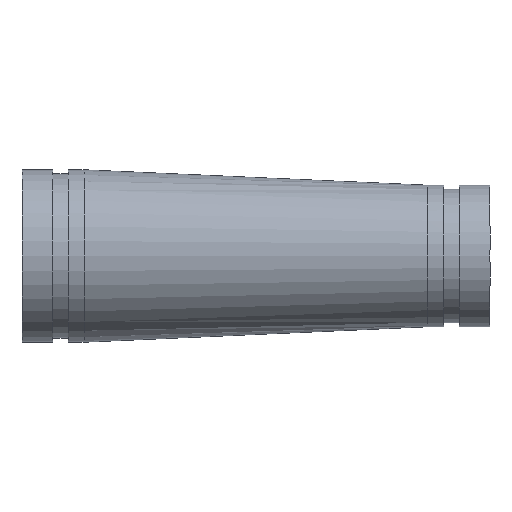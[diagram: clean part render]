
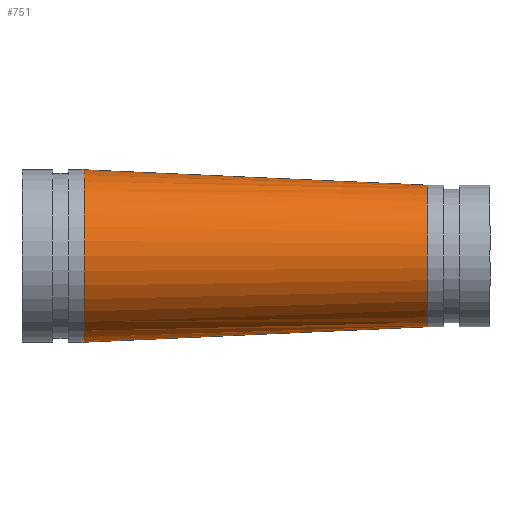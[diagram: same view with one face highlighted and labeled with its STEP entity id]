
A CAD part, front view. The second image highlights one B-rep face of the part: STEP entity #751.
In plain terms, the highlighted free-form (B-spline) face has degree [1, 2] with [2, 9] control points.
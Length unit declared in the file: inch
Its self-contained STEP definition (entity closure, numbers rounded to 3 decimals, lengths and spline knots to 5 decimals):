
#58=B_SPLINE_CURVE_WITH_KNOTS('',1,(#1409,#1410),.UNSPECIFIED.,.F.,.F.,
(2,2),(-3.99662,-0.00009),.UNSPECIFIED.);
#60=(
BOUNDED_SURFACE()
B_SPLINE_SURFACE(1,2,((#1387,#1388,#1389,#1390,#1391,#1392,#1393,#1394,
#1395),(#1396,#1397,#1398,#1399,#1400,#1401,#1402,#1403,#1404)),
 .UNSPECIFIED.,.F.,.T.,.F.)
B_SPLINE_SURFACE_WITH_KNOTS((2,2),(3,2,2,2,3),(-0.04699,4.03325),
(-3.14159,-1.5708,0.,1.5708,3.14159),
 .UNSPECIFIED.)
GEOMETRIC_REPRESENTATION_ITEM()
RATIONAL_B_SPLINE_SURFACE(((1.,0.707,1.,0.707,1.,
0.707,1.,0.707,1.),(1.,0.707,1.,0.707,
1.,0.707,1.,0.707,1.)))
REPRESENTATION_ITEM('')
SURFACE()
);
#128=FACE_OUTER_BOUND('',#160,.T.);
#160=EDGE_LOOP('',(#622,#623,#624,#625,#626,#627,#628));
#247=CIRCLE('',#870,1.4375);
#248=CIRCLE('',#871,1.75);
#249=CIRCLE('',#872,1.75);
#250=CIRCLE('',#873,1.4375);
#251=CIRCLE('',#874,1.4375);
#332=VERTEX_POINT('',#1405);
#333=VERTEX_POINT('',#1406);
#334=VERTEX_POINT('',#1408);
#335=VERTEX_POINT('',#1411);
#336=VERTEX_POINT('',#1414);
#436=EDGE_CURVE('',#332,#333,#247,.T.);
#437=EDGE_CURVE('',#333,#334,#58,.T.);
#438=EDGE_CURVE('',#334,#335,#248,.T.);
#439=EDGE_CURVE('',#335,#334,#249,.T.);
#440=EDGE_CURVE('',#333,#336,#250,.T.);
#441=EDGE_CURVE('',#336,#332,#251,.T.);
#622=ORIENTED_EDGE('',*,*,#436,.T.);
#623=ORIENTED_EDGE('',*,*,#437,.T.);
#624=ORIENTED_EDGE('',*,*,#438,.T.);
#625=ORIENTED_EDGE('',*,*,#439,.T.);
#626=ORIENTED_EDGE('',*,*,#437,.F.);
#627=ORIENTED_EDGE('',*,*,#440,.T.);
#628=ORIENTED_EDGE('',*,*,#441,.T.);
#751=ADVANCED_FACE('',(#128),#60,.F.);
#870=AXIS2_PLACEMENT_3D('',#1407,#1104,#1105);
#871=AXIS2_PLACEMENT_3D('',#1412,#1106,#1107);
#872=AXIS2_PLACEMENT_3D('',#1413,#1108,#1109);
#873=AXIS2_PLACEMENT_3D('',#1415,#1110,#1111);
#874=AXIS2_PLACEMENT_3D('',#1416,#1112,#1113);
#1104=DIRECTION('center_axis',(-1.,0.,0.));
#1105=DIRECTION('ref_axis',(0.,-1.,0.));
#1106=DIRECTION('center_axis',(1.,0.,0.));
#1107=DIRECTION('ref_axis',(0.,1.,0.));
#1108=DIRECTION('center_axis',(1.,0.,0.));
#1109=DIRECTION('ref_axis',(0.,1.,0.));
#1110=DIRECTION('center_axis',(-1.,0.,0.));
#1111=DIRECTION('ref_axis',(0.,-1.,0.));
#1112=DIRECTION('center_axis',(-1.,0.,0.));
#1113=DIRECTION('ref_axis',(0.,-1.,0.));
#1387=CARTESIAN_POINT('Ctrl Pts',(1.17778,0.00018,
1.75368));
#1388=CARTESIAN_POINT('Ctrl Pts',(1.09957,-1.75,1.75368));
#1389=CARTESIAN_POINT('Ctrl Pts',(1.09957,-1.75,0.));
#1390=CARTESIAN_POINT('Ctrl Pts',(1.09957,-1.75,-1.75368));
#1391=CARTESIAN_POINT('Ctrl Pts',(1.17778,0.00018,
-1.75368));
#1392=CARTESIAN_POINT('Ctrl Pts',(1.25598,1.75036,-1.75368));
#1393=CARTESIAN_POINT('Ctrl Pts',(1.25598,1.75036,0.));
#1394=CARTESIAN_POINT('Ctrl Pts',(1.25598,1.75036,1.75368));
#1395=CARTESIAN_POINT('Ctrl Pts',(1.17778,0.00018,
1.75368));
#1396=CARTESIAN_POINT('Ctrl Pts',(8.30397,-0.31823,1.43463));
#1397=CARTESIAN_POINT('Ctrl Pts',(8.24,-1.75,1.43463));
#1398=CARTESIAN_POINT('Ctrl Pts',(8.24,-1.75,0.));
#1399=CARTESIAN_POINT('Ctrl Pts',(8.24,-1.75,-1.43463));
#1400=CARTESIAN_POINT('Ctrl Pts',(8.30397,-0.31823,-1.43463));
#1401=CARTESIAN_POINT('Ctrl Pts',(8.36795,1.11354,-1.43463));
#1402=CARTESIAN_POINT('Ctrl Pts',(8.36795,1.11354,0.));
#1403=CARTESIAN_POINT('Ctrl Pts',(8.36795,1.11354,1.43463));
#1404=CARTESIAN_POINT('Ctrl Pts',(8.30397,-0.31823,1.43463));
#1405=CARTESIAN_POINT('',(8.24,-1.75,0.));
#1406=CARTESIAN_POINT('',(8.24,-0.31537,1.4375));
#1407=CARTESIAN_POINT('Origin',(8.24,-0.3125,0.));
#1408=CARTESIAN_POINT('',(1.26,-0.00349,1.75));
#1409=CARTESIAN_POINT('Ctrl Pts',(8.24,-0.31537,1.4375));
#1410=CARTESIAN_POINT('Ctrl Pts',(1.26,-0.00349,
1.75));
#1411=CARTESIAN_POINT('',(1.26,-1.75,0.));
#1412=CARTESIAN_POINT('Origin',(1.26,0.,0.));
#1413=CARTESIAN_POINT('Origin',(1.26,0.,0.));
#1414=CARTESIAN_POINT('',(8.24,1.125,0.));
#1415=CARTESIAN_POINT('Origin',(8.24,-0.3125,0.));
#1416=CARTESIAN_POINT('Origin',(8.24,-0.3125,0.));
